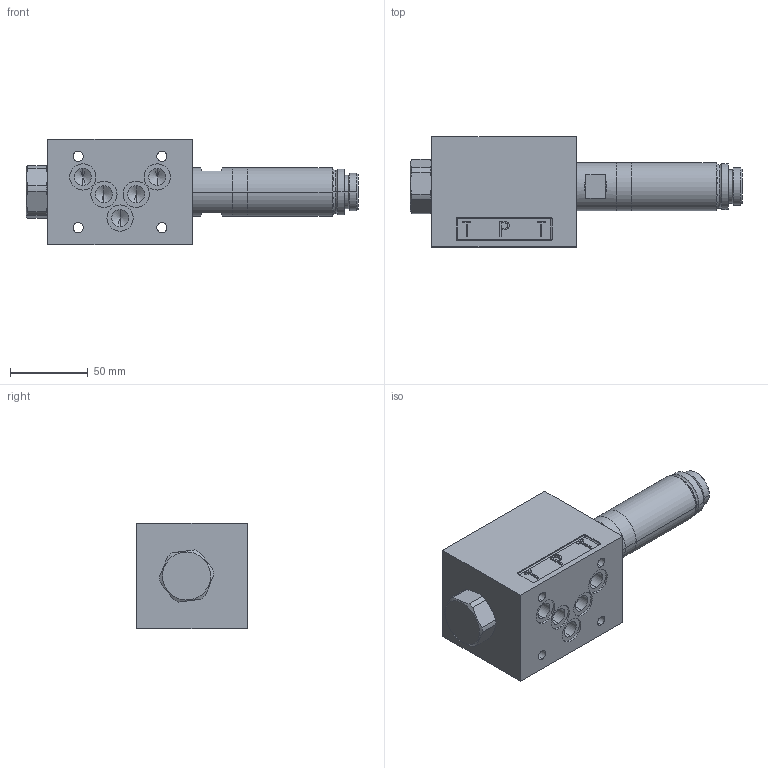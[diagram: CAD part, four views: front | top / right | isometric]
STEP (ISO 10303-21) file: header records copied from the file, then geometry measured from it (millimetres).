
FILE_DESCRIPTION (( 'STEP AP214' ), '1' );
FILE_NAME ('WDMFA10-4_2-Bside.STEP', '2014-07-14T09:52:26', ( '' ), ( '' ), 'SwSTEP 2.0', 'SolidWorks 2014', '' );
FILE_SCHEMA (( 'AUTOMOTIVE_DESIGN' ));
Length unit declared in the file: millimetre
Products named in the file (2): WDMFA10-4_2-Bside
Bounding box: 214.2 x 71 x 68 mm (x, y, z)
Volume: 487971.3 mm3; surface area: 87927.8 mm2
Topology: 15 solids, 15 shells, 454 faces, 1011 edges, 593 vertices
Faces by surface type: cylinder 168, plane 121, cone 94, torus 40, bspline 23, sphere 8
Entity records: 18580 total; most frequent: CARTESIAN_POINT 3313, DIRECTION 2237, ORIENTED_EDGE 1962, EDGE_CURVE 981, AXIS2_PLACEMENT_3D 889, VERTEX_POINT 593, EDGE_LOOP 526, UNCERTAINTY_MEASURE_WITH_UNIT 471
